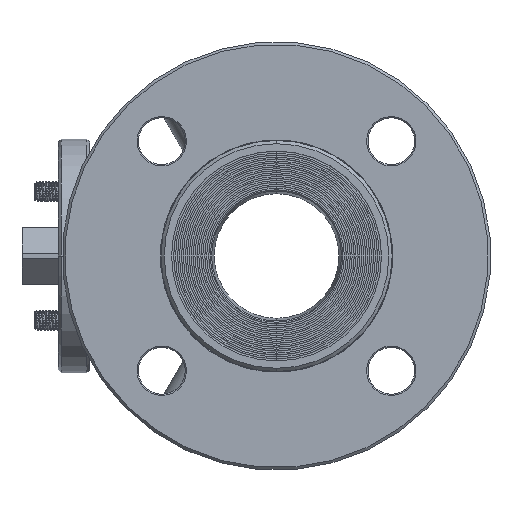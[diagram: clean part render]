
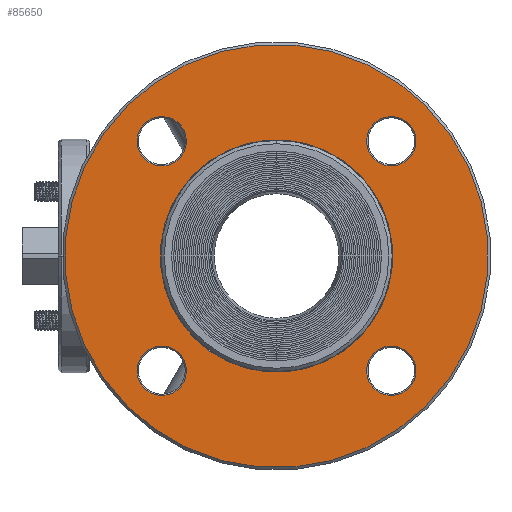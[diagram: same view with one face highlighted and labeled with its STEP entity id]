
A CAD part, left-side view. The second image highlights one B-rep face of the part: STEP entity #85650.
In plain terms, the highlighted planar face has unit normal (-1, 0, 0).
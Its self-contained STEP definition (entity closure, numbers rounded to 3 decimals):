
#10805=CARTESIAN_POINT('',(-73.,0.,0.));
#10806=DIRECTION('',(-1.,0.,0.));
#10807=DIRECTION('',(0.,0.707,0.707));
#10808=AXIS2_PLACEMENT_3D('',#10805,#10806,#10807);
#10813=CARTESIAN_POINT('',(-73.,0.,0.));
#10814=DIRECTION('',(-1.,0.,0.));
#10815=DIRECTION('',(0.,-0.707,-0.707));
#10816=AXIS2_PLACEMENT_3D('',#10813,#10814,#10815);
#10821=CARTESIAN_POINT('',(-73.,0.,0.));
#10822=DIRECTION('',(-1.,0.,0.));
#10823=DIRECTION('',(0.,0.707,0.707));
#10824=AXIS2_PLACEMENT_3D('',#10821,#10822,#10823);
#10829=CARTESIAN_POINT('',(-73.,0.,0.));
#10830=DIRECTION('',(-1.,0.,0.));
#10831=DIRECTION('',(0.,-0.707,-0.707));
#10832=AXIS2_PLACEMENT_3D('',#10829,#10830,#10831);
#11003=CARTESIAN_POINT('',(-73.,-44.194,-44.194));
#11004=DIRECTION('',(1.,0.,0.));
#11005=DIRECTION('',(0.,-0.707,-0.707));
#11006=AXIS2_PLACEMENT_3D('',#11003,#11004,#11005);
#11033=CARTESIAN_POINT('',(-73.,-44.194,-44.194));
#11034=DIRECTION('',(1.,0.,0.));
#11035=DIRECTION('',(0.,0.707,0.707));
#11036=AXIS2_PLACEMENT_3D('',#11033,#11034,#11035);
#11109=CARTESIAN_POINT('',(-73.,44.194,-44.194));
#11110=DIRECTION('',(1.,0.,0.));
#11111=DIRECTION('',(0.,-0.707,-0.707));
#11112=AXIS2_PLACEMENT_3D('',#11109,#11110,#11111);
#11139=CARTESIAN_POINT('',(-73.,44.194,-44.194));
#11140=DIRECTION('',(1.,0.,0.));
#11141=DIRECTION('',(0.,0.707,0.707));
#11142=AXIS2_PLACEMENT_3D('',#11139,#11140,#11141);
#11215=CARTESIAN_POINT('',(-73.,44.194,44.194));
#11216=DIRECTION('',(1.,0.,0.));
#11217=DIRECTION('',(0.,-0.707,-0.707));
#11218=AXIS2_PLACEMENT_3D('',#11215,#11216,#11217);
#11231=CARTESIAN_POINT('',(-73.,44.194,44.194));
#11232=DIRECTION('',(1.,0.,0.));
#11233=DIRECTION('',(0.,0.707,0.707));
#11234=AXIS2_PLACEMENT_3D('',#11231,#11232,#11233);
#11321=CARTESIAN_POINT('',(-73.,-44.194,44.194));
#11322=DIRECTION('',(1.,0.,0.));
#11323=DIRECTION('',(0.,-0.707,-0.707));
#11324=AXIS2_PLACEMENT_3D('',#11321,#11322,#11323);
#11351=CARTESIAN_POINT('',(-73.,-44.194,44.194));
#11352=DIRECTION('',(1.,0.,0.));
#11353=DIRECTION('',(0.,0.707,0.707));
#11354=AXIS2_PLACEMENT_3D('',#11351,#11352,#11353);
#75128=CARTESIAN_POINT('',(-73.,-37.477,50.912));
#75129=CARTESIAN_POINT('',(-73.,-50.912,37.477));
#75130=VERTEX_POINT('',#75128);
#75131=VERTEX_POINT('',#75129);
#75136=CARTESIAN_POINT('',(-73.,37.477,37.477));
#75137=CARTESIAN_POINT('',(-73.,50.912,50.912));
#75138=VERTEX_POINT('',#75136);
#75139=VERTEX_POINT('',#75137);
#75144=CARTESIAN_POINT('',(-73.,50.912,-37.477));
#75145=CARTESIAN_POINT('',(-73.,37.477,-50.912));
#75146=VERTEX_POINT('',#75144);
#75147=VERTEX_POINT('',#75145);
#75152=CARTESIAN_POINT('',(-73.,-37.477,-37.477));
#75153=CARTESIAN_POINT('',(-73.,-50.912,-50.912));
#75154=VERTEX_POINT('',#75152);
#75155=VERTEX_POINT('',#75153);
#75192=CARTESIAN_POINT('',(-73.,31.643,31.643));
#75193=CARTESIAN_POINT('',(-73.,-31.643,-31.643));
#75194=VERTEX_POINT('',#75192);
#75195=VERTEX_POINT('',#75193);
#75212=CARTESIAN_POINT('',(-73.,57.629,57.629));
#75213=CARTESIAN_POINT('',(-73.,-57.629,-57.629));
#75214=VERTEX_POINT('',#75212);
#75215=VERTEX_POINT('',#75213);
#85611=CARTESIAN_POINT('',(-73.,0.,0.));
#85612=DIRECTION('',(-1.,0.,0.));
#85613=DIRECTION('',(0.,-0.707,-0.707));
#85614=AXIS2_PLACEMENT_3D('',#85611,#85612,#85613);
#85615=PLANE('',#85614);
#85617=ORIENTED_EDGE('',*,*,#85616,.F.);
#85619=ORIENTED_EDGE('',*,*,#85618,.F.);
#85620=EDGE_LOOP('',(#85617,#85619));
#85621=FACE_OUTER_BOUND('',#85620,.F.);
#85623=ORIENTED_EDGE('',*,*,#85622,.F.);
#85625=ORIENTED_EDGE('',*,*,#85624,.F.);
#85626=EDGE_LOOP('',(#85623,#85625));
#85627=FACE_BOUND('',#85626,.F.);
#85629=ORIENTED_EDGE('',*,*,#85628,.F.);
#85631=ORIENTED_EDGE('',*,*,#85630,.F.);
#85632=EDGE_LOOP('',(#85629,#85631));
#85633=FACE_BOUND('',#85632,.F.);
#85635=ORIENTED_EDGE('',*,*,#85634,.F.);
#85637=ORIENTED_EDGE('',*,*,#85636,.F.);
#85638=EDGE_LOOP('',(#85635,#85637));
#85639=FACE_BOUND('',#85638,.F.);
#85641=ORIENTED_EDGE('',*,*,#85640,.F.);
#85643=ORIENTED_EDGE('',*,*,#85642,.F.);
#85644=EDGE_LOOP('',(#85641,#85643));
#85645=FACE_BOUND('',#85644,.F.);
#85646=ORIENTED_EDGE('',*,*,#85605,.T.);
#85647=ORIENTED_EDGE('',*,*,#85562,.T.);
#85648=EDGE_LOOP('',(#85646,#85647));
#85649=FACE_BOUND('',#85648,.F.);
#85650=ADVANCED_FACE('',(#85621,#85627,#85633,#85639,#85645,#85649),#85615,.T.);
#10809=CIRCLE('',#10808,81.5);
#10817=CIRCLE('',#10816,81.5);
#10825=CIRCLE('',#10824,44.75);
#10833=CIRCLE('',#10832,44.75);
#11007=CIRCLE('',#11006,9.5);
#11037=CIRCLE('',#11036,9.5);
#11113=CIRCLE('',#11112,9.5);
#11143=CIRCLE('',#11142,9.5);
#11219=CIRCLE('',#11218,9.5);
#11235=CIRCLE('',#11234,9.5);
#11325=CIRCLE('',#11324,9.5);
#11355=CIRCLE('',#11354,9.5);
#85562=EDGE_CURVE('',#75195,#75194,#10833,.T.);
#85605=EDGE_CURVE('',#75194,#75195,#10825,.T.);
#85616=EDGE_CURVE('',#75214,#75215,#10809,.T.);
#85618=EDGE_CURVE('',#75215,#75214,#10817,.T.);
#85622=EDGE_CURVE('',#75155,#75154,#11007,.T.);
#85624=EDGE_CURVE('',#75154,#75155,#11037,.T.);
#85628=EDGE_CURVE('',#75147,#75146,#11113,.T.);
#85630=EDGE_CURVE('',#75146,#75147,#11143,.T.);
#85634=EDGE_CURVE('',#75138,#75139,#11219,.T.);
#85636=EDGE_CURVE('',#75139,#75138,#11235,.T.);
#85640=EDGE_CURVE('',#75131,#75130,#11325,.T.);
#85642=EDGE_CURVE('',#75130,#75131,#11355,.T.);
